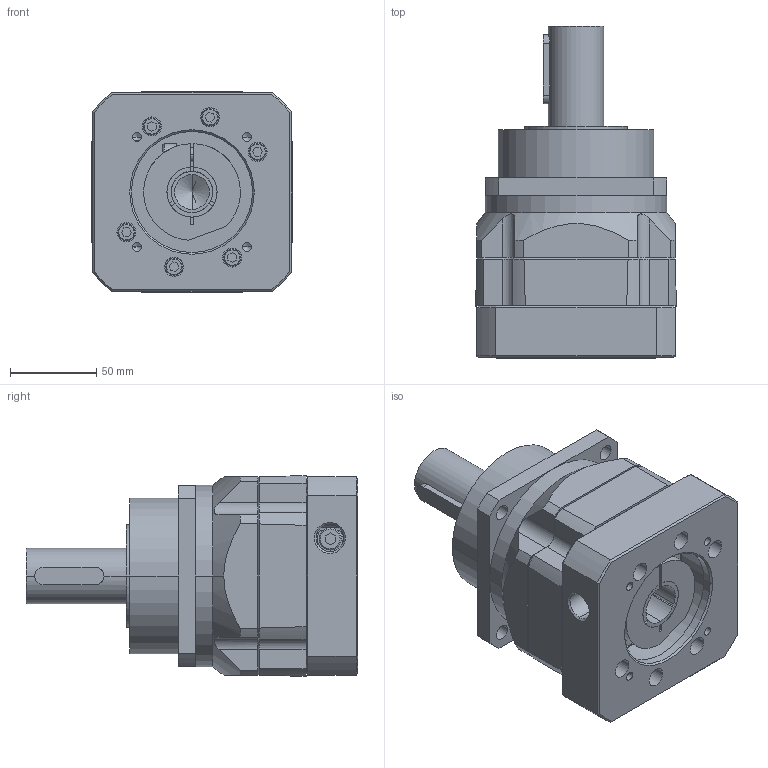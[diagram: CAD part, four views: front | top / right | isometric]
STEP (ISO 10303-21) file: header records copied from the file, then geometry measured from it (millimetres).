
FILE_DESCRIPTION (( 'STEP AP203' ), '1' );
FILE_NAME ('5A4XS.070115.031.STEP', '2018-02-01T05:59:00', ( '' ), ( '' ), 'SwSTEP 2.0', 'SolidWorks 2010', '' );
FILE_SCHEMA (( 'CONFIG_CONTROL_DESIGN' ));
Length unit declared in the file: millimetre
Products named in the file (7): 5A4XS.070115.031; 螺絲-M6x25L_M6x25L; 234BC44324_銑工; PUL100-前段; PUL100-後段_入力軸24; 螺絲-M8x20L_M8x20L; 雙圓鍵-115-142_10x8x40
Assembly tree (11 placements, depth 2):
  5A4XS.070115.031
    螺絲-M6x25L_M6x25L  x6
    PUL100-後段_入力軸24
    PUL100-前段
    234BC44324_銑工
    螺絲-M8x20L_M8x20L
    雙圓鍵-115-142_10x8x40
Bounding box: 116 x 192 x 116 mm (x, y, z)
Volume: 1300395.8 mm3; surface area: 166502.1 mm2
Topology: 11 solids, 11 shells, 472 faces, 1114 edges, 690 vertices
Faces by surface type: cylinder 193, plane 189, cone 90
Entity records: 12444 total; most frequent: CARTESIAN_POINT 2553, DIRECTION 1997, ORIENTED_EDGE 1784, EDGE_CURVE 892, AXIS2_PLACEMENT_3D 786, VERTEX_POINT 570, EDGE_LOOP 462, LINE 425
